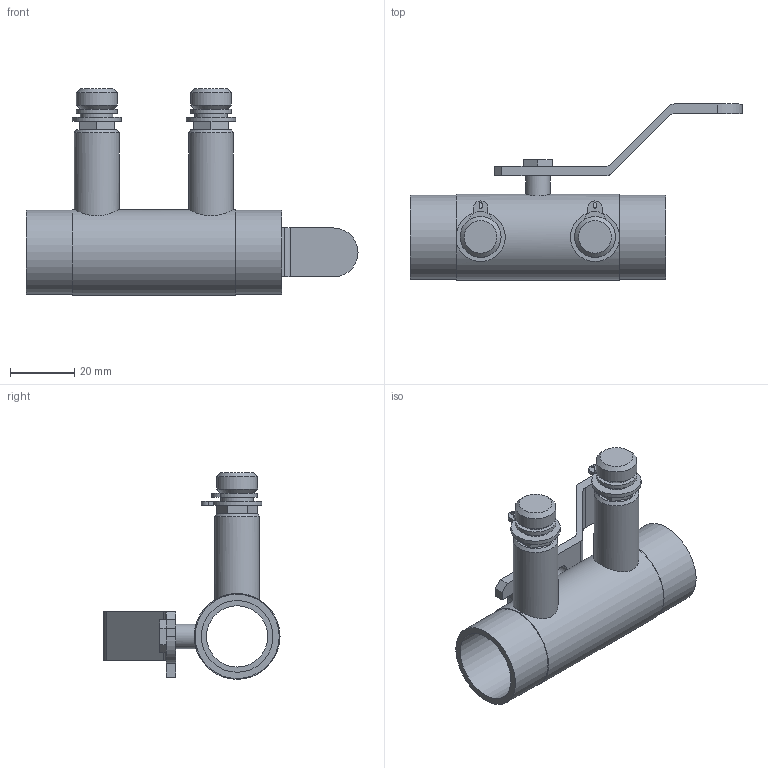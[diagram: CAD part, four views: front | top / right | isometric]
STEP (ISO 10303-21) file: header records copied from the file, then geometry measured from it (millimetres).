
FILE_DESCRIPTION(/* description */ ('VIC BALANCING VALVE SERIES 78BL (SWT)','CAx-IF Rec.Pracs.---Representation and Presentation of Product Manufacturing Information (PMI)---4.0---2014-10-13'),/* implementation_level */ '2;1');
FILE_NAME(/* name */ 'C:\Users\kkamble\Desktop\New folder (12)\New folder\step\Victaulic-IPS-TA Balancing Ball Valve Series 78BL (SWT)\Victaulic-IPS-TA Balancing Ball Valve Series 78BL (SWT)_0.75 (20).stp',/* time_stamp */ '2020-10-13T18:39:03+05:00',/* author */ ('kkamble'),/* organization */ ('Victaulic'),/* preprocessor_version */ 'ST-DEVELOPER v17.2',/* originating_system */ 'Autodesk Inventor 2019',/* authorisation */ '');
FILE_SCHEMA (('AP242_MANAGED_MODEL_BASED_3D_ENGINEERING_MIM_LF { 1 0 10303 442 1 1 4 }'));
Length unit declared in the file: inch
Products named in the file (1): 78BL-0.75
Bounding box: 103.25 x 54.74 x 64.26 mm (x, y, z)
Volume: 31514.7 mm3; surface area: 19506 mm2
Topology: 1 solids, 1 shells, 115 faces, 301 edges, 191 vertices
Faces by surface type: plane 77, cylinder 32, cone 6
Full cylindrical faces by diameter (mm): 4.318 x1, 7.62 x1, 10.16 x2, 12.7 x2, 13.97 x2, 19.05 x1, 22.276 x2, 26.187 x2, 26.67 x1
Entity records: 3941 total; most frequent: CARTESIAN_POINT 727, DIRECTION 654, ORIENTED_EDGE 602, EDGE_CURVE 301, AXIS2_PLACEMENT_3D 230, LINE 194, VECTOR 194, VERTEX_POINT 191
